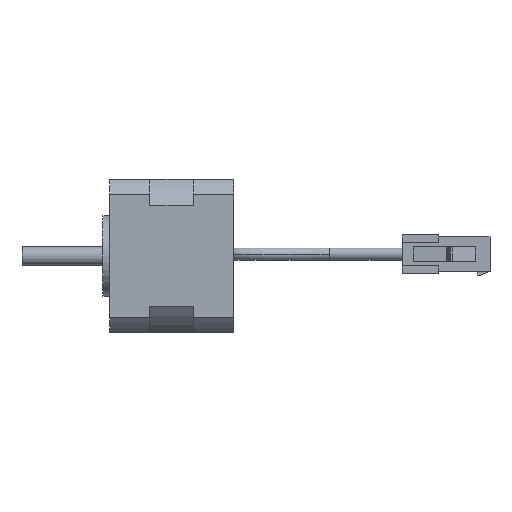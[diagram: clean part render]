
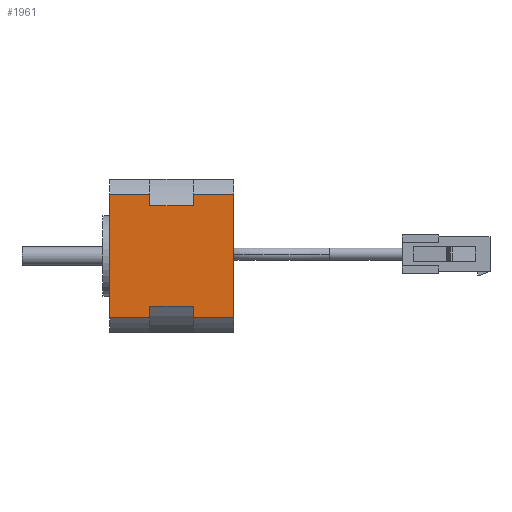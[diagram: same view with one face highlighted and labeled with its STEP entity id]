
A CAD part, front view. The second image highlights one B-rep face of the part: STEP entity #1961.
In plain terms, the highlighted planar face has unit normal (0, -1, 0).
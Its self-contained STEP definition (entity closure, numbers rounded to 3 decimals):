
#15 = VECTOR ( 'NONE', #2950, 1000. ) ;
#138 = VERTEX_POINT ( 'NONE', #2571 ) ;
#171 = EDGE_CURVE ( 'NONE', #5964, #5382, #188, .T. ) ;
#188 = LINE ( 'NONE', #242, #5329 ) ;
#195 = ORIENTED_EDGE ( 'NONE', *, *, #2673, .F. ) ;
#242 = CARTESIAN_POINT ( 'NONE',  ( 4.029, 0., 34. ) ) ;
#247 = CARTESIAN_POINT ( 'NONE',  ( 4.029, 0., 0. ) ) ;
#380 = EDGE_CURVE ( 'NONE', #5382, #6582, #3672, .T. ) ;
#476 = ORIENTED_EDGE ( 'NONE', *, *, #4237, .F. ) ;
#494 = LINE ( 'NONE', #6518, #6472 ) ;
#579 = VERTEX_POINT ( 'NONE', #6328 ) ;
#617 = CARTESIAN_POINT ( 'NONE',  ( 7.234, 0., 11. ) ) ;
#643 = VERTEX_POINT ( 'NONE', #1552 ) ;
#660 = DIRECTION ( 'NONE',  ( 1., 0., 0. ) ) ;
#698 = CARTESIAN_POINT ( 'NONE',  ( 34.766, 0., 11. ) ) ;
#1045 = VECTOR ( 'NONE', #4072, 1000. ) ;
#1133 = CARTESIAN_POINT ( 'NONE',  ( 37.971, 0., 34. ) ) ;
#1389 = ORIENTED_EDGE ( 'NONE', *, *, #2105, .F. ) ;
#1425 = VERTEX_POINT ( 'NONE', #5840 ) ;
#1552 = CARTESIAN_POINT ( 'NONE',  ( 37.971, 0., 11. ) ) ;
#1875 = EDGE_CURVE ( 'NONE', #579, #2892, #5423, .T. ) ;
#1923 = DIRECTION ( 'NONE',  ( 0., 0., -1. ) ) ;
#1961 = ADVANCED_FACE ( 'NONE', ( #4864 ), #6890, .F. ) ;
#1986 = ORIENTED_EDGE ( 'NONE', *, *, #7141, .T. ) ;
#2043 = LINE ( 'NONE', #6324, #4953 ) ;
#2073 = VECTOR ( 'NONE', #4839, 1000. ) ;
#2105 = EDGE_CURVE ( 'NONE', #6064, #4481, #2043, .T. ) ;
#2307 = VECTOR ( 'NONE', #660, 1000. ) ;
#2323 = DIRECTION ( 'NONE',  ( 0., 1., 0. ) ) ;
#2523 = CARTESIAN_POINT ( 'NONE',  ( 4.029, 0., 34. ) ) ;
#2543 = ORIENTED_EDGE ( 'NONE', *, *, #3053, .F. ) ;
#2552 = VERTEX_POINT ( 'NONE', #3900 ) ;
#2571 = CARTESIAN_POINT ( 'NONE',  ( 7.234, 0., 11. ) ) ;
#2673 = EDGE_CURVE ( 'NONE', #643, #6582, #6202, .T. ) ;
#2674 = EDGE_CURVE ( 'NONE', #6064, #1425, #4655, .T. ) ;
#2828 = ORIENTED_EDGE ( 'NONE', *, *, #3010, .F. ) ;
#2862 = CARTESIAN_POINT ( 'NONE',  ( 4.029, 0., 23. ) ) ;
#2892 = VERTEX_POINT ( 'NONE', #6430 ) ;
#2947 = ORIENTED_EDGE ( 'NONE', *, *, #1875, .F. ) ;
#2950 = DIRECTION ( 'NONE',  ( 1., 0., 0. ) ) ;
#2977 = CARTESIAN_POINT ( 'NONE',  ( 4.029, 0., 11. ) ) ;
#3010 = EDGE_CURVE ( 'NONE', #5964, #138, #5673, .T. ) ;
#3053 = EDGE_CURVE ( 'NONE', #138, #2552, #4114, .T. ) ;
#3532 = DIRECTION ( 'NONE',  ( 0., 0., -1. ) ) ;
#3672 = LINE ( 'NONE', #4712, #2307 ) ;
#3768 = CARTESIAN_POINT ( 'NONE',  ( 4.029, 0., 23. ) ) ;
#3871 = VECTOR ( 'NONE', #5519, 1000. ) ;
#3900 = CARTESIAN_POINT ( 'NONE',  ( 7.234, 0., 23. ) ) ;
#4015 = ORIENTED_EDGE ( 'NONE', *, *, #2674, .T. ) ;
#4072 = DIRECTION ( 'NONE',  ( 0., 0., 1. ) ) ;
#4114 = LINE ( 'NONE', #617, #1045 ) ;
#4206 = DIRECTION ( 'NONE',  ( 0., 0., -1. ) ) ;
#4237 = EDGE_CURVE ( 'NONE', #4481, #643, #6967, .T. ) ;
#4247 = CARTESIAN_POINT ( 'NONE',  ( 4.029, 0., 23. ) ) ;
#4301 = ORIENTED_EDGE ( 'NONE', *, *, #5823, .F. ) ;
#4413 = EDGE_LOOP ( 'NONE', ( #2828, #4996, #7454, #195, #476, #1389, #4015, #4301, #2947, #5273, #1986, #2543 ) ) ;
#4481 = VERTEX_POINT ( 'NONE', #698 ) ;
#4527 = CARTESIAN_POINT ( 'NONE',  ( 37.971, 0., 34. ) ) ;
#4655 = LINE ( 'NONE', #2862, #15 ) ;
#4712 = CARTESIAN_POINT ( 'NONE',  ( 4.029, 0., 0. ) ) ;
#4839 = DIRECTION ( 'NONE',  ( 1., 0., 0. ) ) ;
#4843 = VECTOR ( 'NONE', #3532, 1000. ) ;
#4864 = FACE_OUTER_BOUND ( 'NONE', #4413, .T. ) ;
#4953 = VECTOR ( 'NONE', #5809, 1000. ) ;
#4996 = ORIENTED_EDGE ( 'NONE', *, *, #171, .T. ) ;
#5256 = VECTOR ( 'NONE', #6726, 1000. ) ;
#5273 = ORIENTED_EDGE ( 'NONE', *, *, #6443, .T. ) ;
#5279 = DIRECTION ( 'NONE',  ( 1., 0., 0. ) ) ;
#5329 = VECTOR ( 'NONE', #1923, 1000. ) ;
#5382 = VERTEX_POINT ( 'NONE', #247 ) ;
#5423 = LINE ( 'NONE', #6871, #3871 ) ;
#5490 = CARTESIAN_POINT ( 'NONE',  ( 37.971, 0., 0. ) ) ;
#5519 = DIRECTION ( 'NONE',  ( 1., 0., 0. ) ) ;
#5611 = VERTEX_POINT ( 'NONE', #3768 ) ;
#5632 = CARTESIAN_POINT ( 'NONE',  ( 4.029, 0., 11. ) ) ;
#5667 = CARTESIAN_POINT ( 'NONE',  ( 34.766, 0., 23. ) ) ;
#5673 = LINE ( 'NONE', #2977, #6032 ) ;
#5809 = DIRECTION ( 'NONE',  ( 0., 0., -1. ) ) ;
#5812 = DIRECTION ( 'NONE',  ( -1., 0., 0. ) ) ;
#5823 = EDGE_CURVE ( 'NONE', #2892, #1425, #6397, .T. ) ;
#5840 = CARTESIAN_POINT ( 'NONE',  ( 37.971, 0., 23. ) ) ;
#5964 = VERTEX_POINT ( 'NONE', #5632 ) ;
#6032 = VECTOR ( 'NONE', #5279, 1000. ) ;
#6064 = VERTEX_POINT ( 'NONE', #5667 ) ;
#6202 = LINE ( 'NONE', #1133, #4843 ) ;
#6217 = VECTOR ( 'NONE', #6858, 1000. ) ;
#6324 = CARTESIAN_POINT ( 'NONE',  ( 34.766, 0., 11. ) ) ;
#6328 = CARTESIAN_POINT ( 'NONE',  ( 4.029, 0., 34. ) ) ;
#6397 = LINE ( 'NONE', #4527, #6217 ) ;
#6430 = CARTESIAN_POINT ( 'NONE',  ( 37.971, 0., 34. ) ) ;
#6443 = EDGE_CURVE ( 'NONE', #579, #5611, #494, .T. ) ;
#6472 = VECTOR ( 'NONE', #4206, 1000. ) ;
#6518 = CARTESIAN_POINT ( 'NONE',  ( 4.029, 0., 34. ) ) ;
#6582 = VERTEX_POINT ( 'NONE', #5490 ) ;
#6697 = LINE ( 'NONE', #4247, #2073 ) ;
#6726 = DIRECTION ( 'NONE',  ( 1., 0., 0. ) ) ;
#6858 = DIRECTION ( 'NONE',  ( 0., 0., -1. ) ) ;
#6871 = CARTESIAN_POINT ( 'NONE',  ( 4.029, 0., 34. ) ) ;
#6890 = PLANE ( 'NONE',  #7184 ) ;
#6967 = LINE ( 'NONE', #7235, #5256 ) ;
#7141 = EDGE_CURVE ( 'NONE', #5611, #2552, #6697, .T. ) ;
#7184 = AXIS2_PLACEMENT_3D ( 'NONE', #2523, #2323, #5812 ) ;
#7235 = CARTESIAN_POINT ( 'NONE',  ( 4.029, 0., 11. ) ) ;
#7454 = ORIENTED_EDGE ( 'NONE', *, *, #380, .T. ) ;
